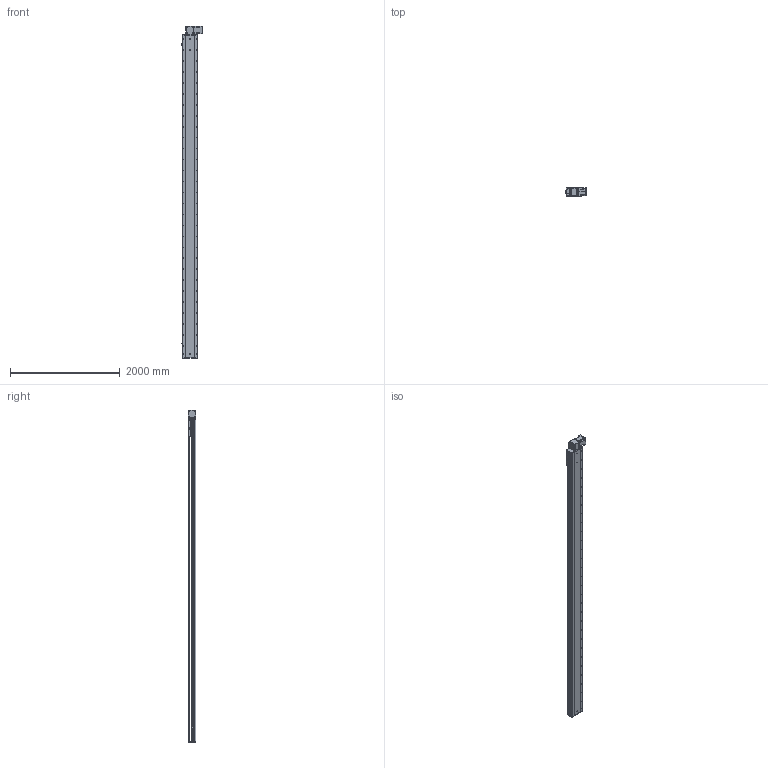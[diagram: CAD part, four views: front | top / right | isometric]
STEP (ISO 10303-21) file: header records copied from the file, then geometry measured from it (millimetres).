
FILE_DESCRIPTION (( 'STEP AP214' ), '1' );
FILE_NAME ('RTB28S-XX-5450-BL-M100-XX-C4.STEP', '2025-12-22T02:55:21', ( '' ), ( '' ), 'SwSTEP 2.0', 'SolidWorks 2018', '' );
FILE_SCHEMA (( 'AUTOMOTIVE_DESIGN' ));
Length unit declared in the file: millimetre
Products named in the file (4): RTB28S-XX-5450-BL-M100-XX-C4; RTB28S-GY-008^RTB28S-XX-XX-BL-M100-XX-C4; RTB28S-GY-011^RTB28S-XX-XX-BL-M100-XX-C4; RTB28S-GY-004^RTB28S-XX-XX-BL-M100-XX-C4
Assembly tree (3 placements, depth 2):
  RTB28S-XX-5450-BL-M100-XX-C4
    RTB28S-GY-011^RTB28S-XX-XX-BL-M100-XX-C4
    RTB28S-GY-004^RTB28S-XX-XX-BL-M100-XX-C4
    RTB28S-GY-008^RTB28S-XX-XX-BL-M100-XX-C4
Bounding box: 380.7 x 145 x 6057 mm (x, y, z)
Volume: 99695518.2 mm3; surface area: 9184769.1 mm2
Topology: 3 solids, 4 shells, 1008 faces, 2748 edges, 1768 vertices
Faces by surface type: cylinder 535, plane 389, cone 80, torus 4
Entity records: 40205 total; most frequent: CARTESIAN_POINT 8302, DIRECTION 5874, ORIENTED_EDGE 5432, EDGE_CURVE 2716, AXIS2_PLACEMENT_3D 2212, VERTEX_POINT 1768, VECTOR 1450, LINE 1450
